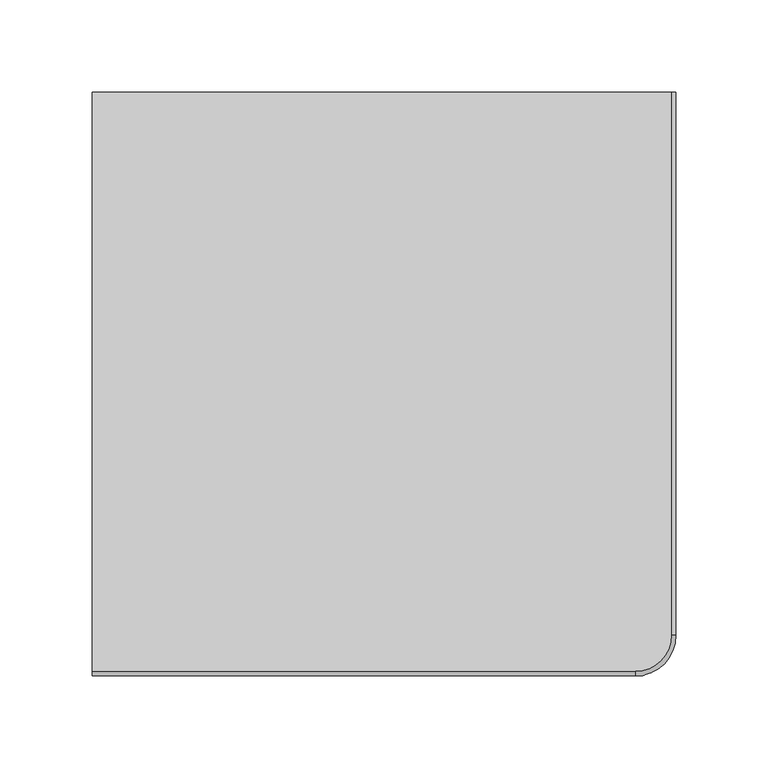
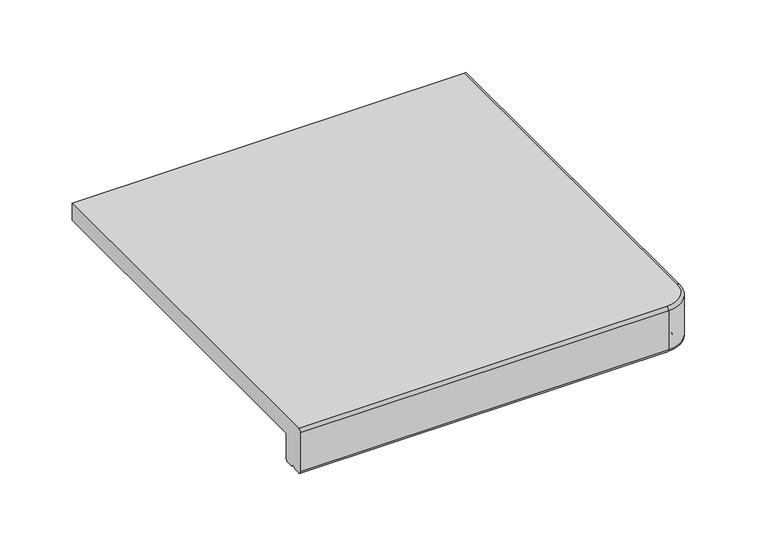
"""IFC4 building model written with IfcOpenShell, lengths in millimetres: proxy geometry, ROSA GRES_DL1 : Pieza DL1_Serena_Ocra_Anti-Slip."""

from ifc_helpers import new_model, si_unit, point, frame, origin, place, context, project, spatial, polyline, circle_curve, ellipse_curve, trimmed, source, transform, mapped, element, save
from ifc_brep_helpers import plane_surface, cylinder_surface, revolved_surface, advanced_brep


def generic_models_225379f4(model_context):
    return source(origin(), model_context, "Body", "AdvancedBrep", [
        advanced_brep(
        [(0.0, 317.0, 38.0), (0.0, 317.0, 23.2451288), (0.0, 20.0, 23.2451288), (0.0, 20.0, 2.5), (0.0, 17.5, 0.0), (0.0, 11.8617862, 0.0), (0.0, 8.1382138, 0.0), (0.0, 2.5, 0.0), (0.0, 0.0, 2.5), (0.0, 0.0, 35.5), (0.0, 2.5, 38.0), (295.0, 2.5, 38.0), (314.5, 22.0, 38.0), (314.5, 317.0, 38.0), (295.0, 20.0, 2.5), (295.0, 20.0, 23.2451288), (295.0, 17.5, 0.0), (299.5, 22.0, 0.0), (299.5, 317.0, 0.0), (305.1382138, 317.0, 0.0), (305.1382138, 22.0, 0.0), (295.0, 11.8617862, 0.0), (295.0, 8.1382138, 0.0), (308.8617862, 22.0, 0.0), (308.8617862, 317.0, 0.0), (314.5, 317.0, 0.0), (314.5, 22.0, 0.0), (295.0, 2.5, 0.0), (295.0, 0.0, 2.5), (295.0, 0.0, 35.5), (297.0, 22.0, 2.5), (297.0, 22.0, 23.2451288), (317.0, 22.0, 2.5), (317.0, 22.0, 35.5), (317.0, 317.0, 35.5), (317.0, 317.0, 2.5), (297.0, 317.0, 2.5), (297.0, 317.0, 23.2451288)],
        [
            (0, 1),
            (1, 2),
            (2, 3),
            (3, 4, circle_curve(frame((0.0, 17.5, 2.5), z_axis=(-1.0, 0.0, 0.0), x_axis=(0.0, -1.0, 0.0)), 2.5)),
            (4, 5),
            (5, 6, circle_curve(frame((0.0, 10.0, 0.0), z_axis=(1.0, 0.0, 0.0), x_axis=(0.0, -1.0, 0.0)), 1.8617862)),
            (6, 7),
            (7, 8, circle_curve(frame((0.0, 2.5, 2.5), z_axis=(-1.0, 0.0, 0.0), x_axis=(0.0, -1.0, 0.0)), 2.5)),
            (8, 9),
            (9, 10, circle_curve(frame((0.0, 2.5, 35.5), z_axis=(-1.0, 0.0, 0.0), x_axis=(0.0, -1.0, 0.0)), 2.5)),
            (10, 0),
            (10, 11),
            (11, 12, circle_curve(frame((295.0, 22.0, 38.0), z_axis=(0.0, 0.0, 1.0), x_axis=(0.0, -1.0, 0.0)), 19.5)),
            (12, 13),
            (13, 0),
            (14, 3),
            (2, 15),
            (15, 14),
            (14, 16, circle_curve(frame((295.0, 17.5, 2.5), z_axis=(-1.0, 0.0, 0.0), x_axis=(0.0, -1.0, 0.0)), 2.5)),
            (16, 4),
            (16, 17, circle_curve(frame((295.0, 22.0, 0.0), z_axis=(0.0, 0.0, 1.0), x_axis=(0.0, -1.0, 0.0)), 4.5)),
            (17, 18),
            (18, 19),
            (19, 20),
            (20, 21, circle_curve(frame((295.0, 22.0, 0.0), z_axis=(0.0, 0.0, -1.0), x_axis=(0.0, -1.0, 0.0)), 10.1382138)),
            (21, 5),
            (21, 22, circle_curve(frame((295.0, 10.0, 0.0), z_axis=(1.0, 0.0, 0.0), x_axis=(0.0, -1.0, 0.0)), 1.8617862)),
            (22, 6),
            (22, 23, circle_curve(frame((295.0, 22.0, 0.0), z_axis=(0.0, 0.0, 1.0), x_axis=(0.0, -1.0, 0.0)), 13.8617862)),
            (23, 24),
            (24, 25),
            (25, 26),
            (26, 27, circle_curve(frame((295.0, 22.0, 0.0), z_axis=(0.0, 0.0, -1.0), x_axis=(0.0, -1.0, 0.0)), 19.5)),
            (27, 7),
            (27, 28, circle_curve(frame((295.0, 2.5, 2.5), z_axis=(-1.0, 0.0, 0.0), x_axis=(0.0, -1.0, 0.0)), 2.5)),
            (28, 8),
            (28, 29),
            (29, 9),
            (29, 11, circle_curve(frame((295.0, 2.5, 35.5), z_axis=(-1.0, 0.0, 0.0), x_axis=(0.0, -1.0, 0.0)), 2.5)),
            (30, 14, circle_curve(frame((295.0, 22.0, 2.5), z_axis=(0.0, 0.0, -1.0), x_axis=(0.0, -1.0, 0.0)), 2.0)),
            (15, 31, circle_curve(frame((295.0, 22.0, 23.2451288), z_axis=(0.0, 0.0, 1.0), x_axis=(0.0, -1.0, 0.0)), 2.0)),
            (31, 30),
            (30, 17, circle_curve(frame((299.5, 22.0, 2.5), z_axis=(0.0, -1.0, 0.0), x_axis=(1.0, 0.0, 0.0)), 2.5)),
            (20, 23, circle_curve(frame((307.0, 22.0, 0.0), z_axis=(0.0, 1.0, 0.0), x_axis=(1.0, 0.0, 0.0)), 1.8617862)),
            (26, 32, circle_curve(frame((314.5, 22.0, 2.5), z_axis=(0.0, -1.0, 0.0), x_axis=(1.0, 0.0, 0.0)), 2.5)),
            (32, 28, circle_curve(frame((295.0, 22.0, 2.5), z_axis=(0.0, 0.0, -1.0), x_axis=(0.0, -1.0, 0.0)), 22.0)),
            (32, 33),
            (33, 29, circle_curve(frame((295.0, 22.0, 35.5), z_axis=(0.0, 0.0, -1.0), x_axis=(0.0, -1.0, 0.0)), 22.0)),
            (33, 12, circle_curve(frame((314.5, 22.0, 35.5), z_axis=(0.0, -1.0, 0.0), x_axis=(1.0, 0.0, 0.0)), 2.5)),
            (13, 34, circle_curve(frame((314.5, 317.0, 35.5), z_axis=(0.0, 1.0, 0.0), x_axis=(1.0, 0.0, 0.0)), 2.5)),
            (34, 35),
            (35, 25, circle_curve(frame((314.5, 317.0, 2.5), z_axis=(0.0, 1.0, 0.0), x_axis=(1.0, 0.0, 0.0)), 2.5)),
            (24, 19, circle_curve(frame((307.0, 317.0, 0.0), z_axis=(0.0, -1.0, 0.0), x_axis=(1.0, 0.0, 0.0)), 1.8617862)),
            (18, 36, circle_curve(frame((299.5, 317.0, 2.5), z_axis=(0.0, 1.0, 0.0), x_axis=(1.0, 0.0, 0.0)), 2.5)),
            (36, 37),
            (37, 1),
            (36, 30),
            (31, 37),
            (35, 32),
            (34, 33),
        ],
        [
            plane_surface(frame((0.0, 0.0, 0.0), z_axis=(-1.0, 0.0, 0.0), x_axis=(0.0, 0.0, 1.0))),
            plane_surface(frame((0.0, 2.5, 38.0), z_axis=(0.0, 0.0, 1.0), x_axis=(1.0, 0.0, 0.0))),
            plane_surface(frame((0.0, 20.0, 38.0), z_axis=(0.0, 1.0, 0.0), x_axis=(1.0, 0.0, 0.0))),
            cylinder_surface(frame((0.0, 17.5, 2.5), z_axis=(-1.0, 0.0, 0.0), x_axis=(0.0, -1.0, 0.0)), 2.5),
            plane_surface(frame((0.0, 17.5, 0.0), z_axis=(0.0, 0.0, -1.0), x_axis=(1.0, 0.0, 0.0))),
            revolved_surface(polyline([(295.0, 8.138213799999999, 0.0), (0.0, 8.138213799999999, 0.0)]), (0.0, 10.0, 0.0), (1.0, 0.0, 0.0)),
            plane_surface(frame((0.0, 8.1382138, 0.0), z_axis=(0.0, 0.0, -1.0), x_axis=(1.0, 0.0, 0.0))),
            cylinder_surface(frame((0.0, 2.5, 2.5), z_axis=(-1.0, 0.0, 0.0), x_axis=(0.0, -1.0, 0.0)), 2.5),
            plane_surface(frame((0.0, 0.0, 2.5), z_axis=(0.0, -1.0, 0.0), x_axis=(1.0, 0.0, 0.0))),
            cylinder_surface(frame((0.0, 2.5, 35.5), z_axis=(-1.0, 0.0, 0.0), x_axis=(0.0, -1.0, 0.0)), 2.5),
            revolved_surface(polyline([(295.0, 20.0, 23.2451288), (295.0, 20.0, 2.5)]), (295.0, 22.0, 0.0), (0.0, 0.0, 1.0)),
            revolved_surface(trimmed(ellipse_curve(frame((295.0, 17.5, 2.5), z_axis=(-1.0, 0.0, 0.0), x_axis=(0.0, -1.0, 0.0)), 2.5, 2.5), [point((295.0, 20.0, 2.5))], [point((295.0, 17.5, 0.0))], True, "CARTESIAN"), (295.0, 22.0, 0.0), (0.0, 0.0, 1.0)),
            revolved_surface(trimmed(ellipse_curve(frame((295.0, 10.0, 0.0), z_axis=(1.0, 0.0, 0.0), x_axis=(0.0, -1.0, 0.0)), 1.8617862, 1.8617862), [point((295.0, 11.8617862, 0.0))], [point((295.0, 8.1382138, 0.0))], True, "CARTESIAN"), (295.0, 22.0, 0.0), (0.0, 0.0, 1.0)),
            revolved_surface(trimmed(ellipse_curve(frame((295.0, 2.5, 2.5), z_axis=(-1.0, 0.0, 0.0), x_axis=(0.0, -1.0, 0.0)), 2.5, 2.5), [point((295.0, 2.5, 0.0))], [point((295.0, 0.0, 2.5))], True, "CARTESIAN"), (295.0, 22.0, 0.0), (0.0, 0.0, 1.0)),
            cylinder_surface(frame((295.0, 22.0, 0.0), z_axis=(0.0, 0.0, 1.0), x_axis=(0.0, -1.0, 0.0)), 22.0),
            revolved_surface(trimmed(ellipse_curve(frame((295.0, 2.5, 35.5), z_axis=(-1.0, 0.0, 0.0), x_axis=(0.0, -1.0, 0.0)), 2.5, 2.5), [point((295.0, 0.0, 35.5))], [point((295.0, 2.5, 38.0))], True, "CARTESIAN"), (295.0, 22.0, 0.0), (0.0, 0.0, 1.0)),
            plane_surface(frame((317.0, 317.0, 0.0), z_axis=(0.0, 1.0, 0.0), x_axis=(0.0, 0.0, 1.0))),
            plane_surface(frame((297.0, 22.0, 38.0), z_axis=(-1.0, 0.0, 0.0), x_axis=(0.0, 1.0, 0.0))),
            cylinder_surface(frame((299.5, 22.0, 2.5), z_axis=(0.0, -1.0, 0.0), x_axis=(1.0, 0.0, 0.0)), 2.5),
            revolved_surface(polyline([(308.8617862, 317.0, 0.0), (308.8617862, 22.0, 0.0)]), (307.0, 22.0, 0.0), (0.0, 1.0, 0.0)),
            cylinder_surface(frame((314.5, 22.0, 2.5), z_axis=(0.0, -1.0, 0.0), x_axis=(1.0, 0.0, 0.0)), 2.5),
            plane_surface(frame((317.0, 22.0, 2.5), z_axis=(1.0, 0.0, 0.0), x_axis=(0.0, 1.0, 0.0))),
            cylinder_surface(frame((314.5, 22.0, 35.5), z_axis=(0.0, -1.0, 0.0), x_axis=(1.0, 0.0, 0.0)), 2.5),
            plane_surface(frame((297.0, 20.0, 23.2451288), z_axis=(0.0, 0.0, -1.0), x_axis=(-1.0, 0.0, 0.0))),
        ],
        [
            (0, [[1, 2, 3, 4, 5, 6, 7, 8, 9, 10, 11]]),
            (1, [[-11, 12, 13, 14, 15]]),
            (2, [[16, -3, 17, 18]]),
            (3, [[-4, -16, 19, 20]]),
            (4, [[-5, -20, 21, 22, 23, 24, 25, 26]]),
            (5, [[-6, -26, 27, 28]]),
            (6, [[-7, -28, 29, 30, 31, 32, 33, 34]]),
            (7, [[-8, -34, 35, 36]]),
            (8, [[-9, -36, 37, 38]]),
            (9, [[-10, -38, 39, -12]]),
            (10, [[40, -18, 41, 42]]),
            (11, [[-19, -40, 43, -21]]),
            (12, [[-25, 44, -29, -27]]),
            (13, [[-33, 45, 46, -35]]),
            (14, [[-37, -46, 47, 48]]),
            (15, [[-13, -39, -48, 49]]),
            (16, [[-15, 50, 51, 52, -31, 53, -23, 54, 55, 56, -1]]),
            (17, [[57, -42, 58, -55]]),
            (18, [[-22, -43, -57, -54]]),
            (19, [[-24, -53, -30, -44]]),
            (20, [[-32, -52, 59, -45]]),
            (21, [[-47, -59, -51, 60]]),
            (22, [[-14, -49, -60, -50]]),
            (23, [[-2, -56, -58, -41, -17]]),
        ],
    ),
    ])


if __name__ == "__main__":
    model = new_model("IFC4")
    model_context = context("Model", 3, world=origin())
    ifc_project = project(units=[si_unit("LENGTHUNIT", "METRE", prefix="MILLI")], contexts=[model_context])
    site = spatial("IfcSite", under=ifc_project)
    building = spatial("IfcBuilding", under=site)
    placement = place(None, origin())
    generic_models_shape = generic_models_225379f4(model_context)
    element("IfcBuildingElementProxy", 1, Name="ROSA GRES_DL1 : Pieza DL1_Serena_Ocra_Anti-Slip", ObjectType="ROSA GRES_DL1 : Pieza DL1_Serena_Ocra_Anti-Slip", at=placement, inside=building, context=model_context, shape_type="MappedRepresentation", body=[
        mapped(generic_models_shape, transform((0.0, 0.0, 0.0), x_axis=(1.0, 0.0, 0.0), y_axis=(0.0, 1.0, 0.0), z_axis=(0.0, 0.0, 1.0))),
    ])
    save(model, "model.ifc")
